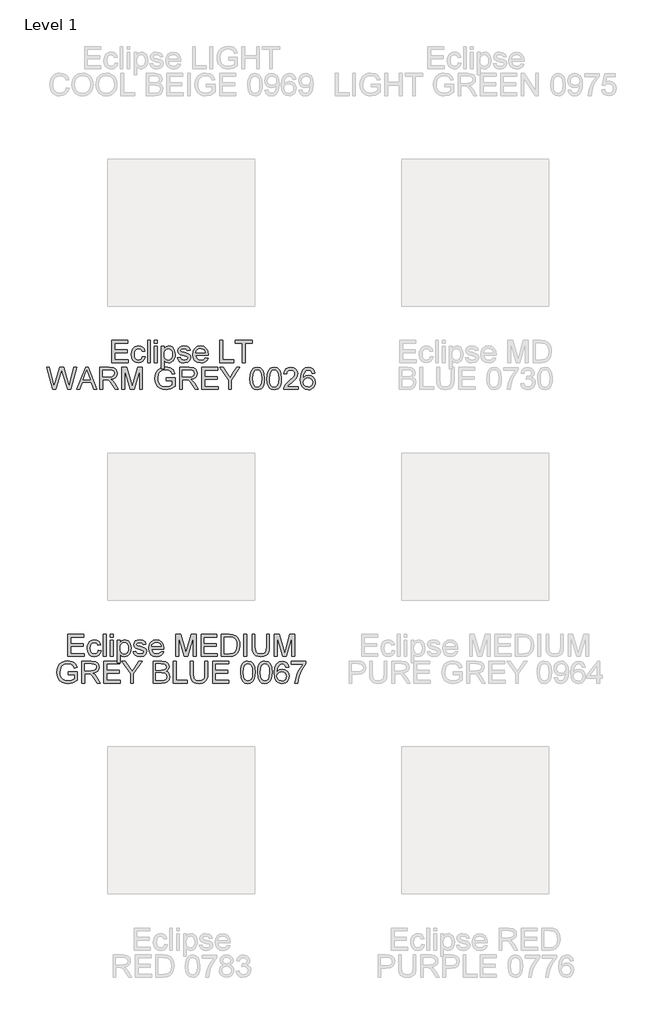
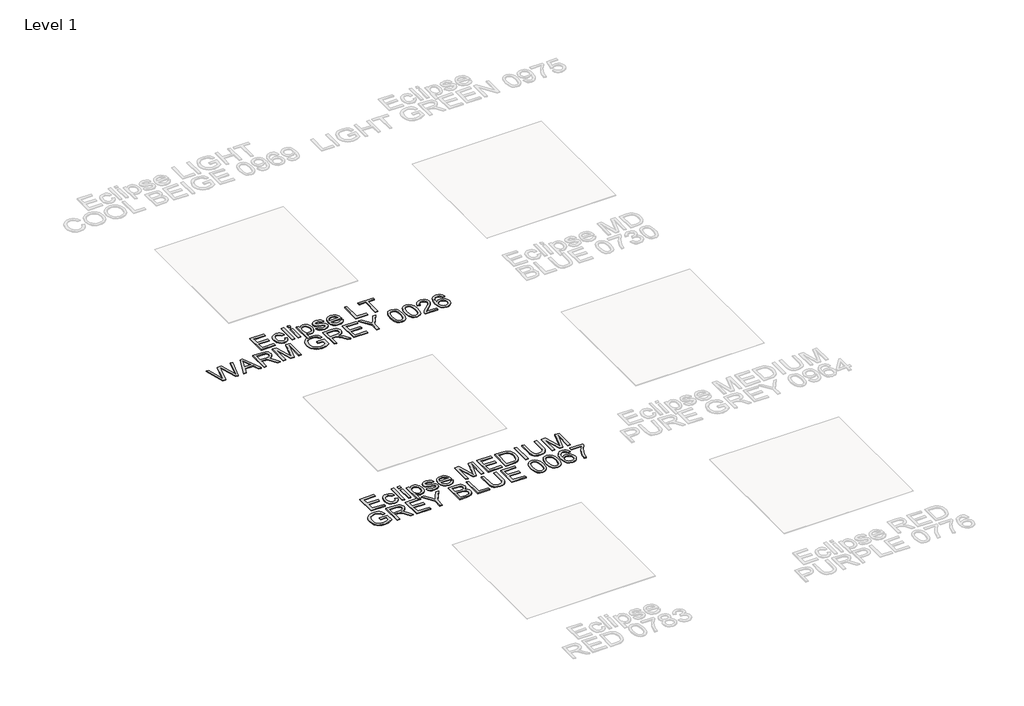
# One storey, part 2 of 13: 2 proxies.
"""IFC4 building model written with IfcOpenShell, lengths in millimetres."""

from ifc_helpers import new_model, si_unit, origin, origin_with_axes, place, context, project, spatial, polyline, outline, extrude, element, save

model = new_model("IFC4")

# Units and contexts
model_context = context("Model", 3, world=origin())
ifc_project = project(units=[si_unit("LENGTHUNIT", "METRE", prefix="MILLI")], contexts=[model_context])

# Site, building, storey
site = spatial("IfcSite", under=ifc_project)
building = spatial("IfcBuilding", under=site)
storey = spatial("IfcBuildingStorey", under=building, Name="Level 1", Elevation=0.0)

# Proxies
placement = place(None, origin())
element("IfcBuildingElementProxy", 1, Name="150mm Arial", ObjectType="150mm Arial", at=placement, inside=storey, context=model_context, shape_type="SweptSolid", body=[
    extrude(outline(polyline([(-2406.0070195, -3362.9455422), (-2406.0070195, -3212.261077), (-2297.7025601, -3212.261077), (-2297.7025601, -3231.0966352), (-2387.1714614, -3231.0966352), (-2387.1714614, -3275.8310858), (-2302.4114497, -3275.8310858), (-2302.4114497, -3294.6666439), (-2387.1714614, -3294.6666439), (-2387.1714614, -3344.1099841), (-2295.3481154, -3344.1099841), (-2295.3481154, -3362.9455422), (-2406.0070195, -3362.9455422)])), origin_with_axes(), (0.0, 0.0, 1.0), 5.0),
    extrude(outline(polyline([(-2198.8158798, -3322.9199812), (-2179.9803217, -3325.2744259), (-2185.2318372, -3342.0268523), (-2195.1002717, -3354.6865914), (-2208.6567232, -3362.6466381), (-2224.9722897, -3365.299987), (-2245.0080629, -3361.5981744), (-2260.6752373, -3350.4927367), (-2270.7873937, -3332.4711175), (-2274.1581125, -3308.0207603), (-2272.7187741, -3291.2591369), (-2268.4007592, -3276.7323967), (-2261.1350898, -3265.0015595), (-2250.8527881, -3256.6276456), (-2238.5517338, -3251.6060564), (-2225.2298071, -3249.9321933), (-2209.3143123, -3252.2314558), (-2196.5901938, -3259.1292432), (-2187.4621218, -3270.2576735), (-2182.3347665, -3285.2488648), (-2201.1703246, -3287.6033096), (-2209.907522, -3273.4950351), (-2225.0826543, -3268.7677515), (-2237.2549498, -3271.0946051), (-2246.9164507, -3278.0751659), (-2253.2210284, -3290.0865131), (-2255.3225543, -3307.5057256), (-2253.2670136, -3325.1594628), (-2247.1003917, -3337.2121967), (-2237.6136348, -3344.1513708), (-2225.5976891, -3346.4644288), (-2215.8442177, -3345.020492), (-2207.8473828, -3340.6886815), (-2202.0302488, -3333.3586328), (-2198.8158798, -3322.9199812)])), origin_with_axes(), (0.0, 0.0, 1.0), 5.0),
    extrude(outline(polyline([(-2163.4992083, -3362.9455422), (-2163.4992083, -3212.261077), (-2144.6636501, -3212.261077), (-2144.6636501, -3362.9455422), (-2163.4992083, -3362.9455422)])), origin_with_axes(), (0.0, 0.0, 1.0), 5.0),
    extrude(outline(polyline([(-2116.4103129, -3231.0966352), (-2116.4103129, -3212.261077), (-2097.5747548, -3212.261077), (-2097.5747548, -3231.0966352), (-2116.4103129, -3231.0966352)])), origin_with_axes(), (0.0, 0.0, 1.0), 5.0),
    extrude(outline(polyline([(-2116.4103129, -3362.9455422), (-2116.4103129, -3252.2866381), (-2097.5747548, -3252.2866381), (-2097.5747548, -3362.9455422), (-2116.4103129, -3362.9455422)])), origin_with_axes(), (0.0, 0.0, 1.0), 5.0),
    extrude(outline(polyline([(-2069.3214175, -3405.3255481), (-2069.3214175, -3252.2866381), (-2050.4858594, -3252.2866381), (-2050.4858594, -3270.7543142), (-2037.4628368, -3255.1377235), (-2019.8780774, -3249.9321933), (-2007.1401633, -3251.7532092), (-1996.0025359, -3257.2162568), (-1986.9342447, -3265.9902424), (-1980.4043393, -3277.7440721), (-1975.1436268, -3306.7699616), (-1976.6289503, -3322.8785944), (-1981.084921, -3337.2857731), (-1988.3689845, -3349.260332), (-1998.3385866, -3358.0711058), (-2009.949862, -3363.4927667), (-2022.1589458, -3365.299987), (-2038.5480886, -3360.4623388), (-2050.4858594, -3348.2302624), (-2050.4858594, -3405.3255481), (-2069.3214175, -3405.3255481)]), holes=[polyline([(-2050.4858594, -3308.4990069), (-2048.4487128, -3325.3847905), (-2042.3372732, -3337.1938026), (-2033.3195658, -3344.1467723), (-2022.5636159, -3346.4644288), (-2011.6329222, -3344.0639988), (-2002.3852885, -3336.8627088), (-1996.0807108, -3324.6214354), (-1993.9791849, -3307.1010554), (-1996.030127, -3290.3072423), (-2002.1829534, -3278.3326833), (-2011.1868652, -3271.1589844), (-2021.7910638, -3268.7677515), (-2032.436649, -3271.3107358), (-2041.7854502, -3278.9396886), (-2048.3107571, -3291.4154868), (-2050.4858594, -3308.4990069)])]), origin_with_axes(), (0.0, 0.0, 1.0), 5.0),
    extrude(outline(polyline([(-1961.0169582, -3329.9833155), (-1942.1814, -3327.6288707), (-1939.2107529, -3335.6854864), (-1933.4625967, -3341.6083865), (-1913.4866044, -3346.4644288), (-1894.2831642, -3342.0130567), (-1888.0291703, -3331.565208), (-1889.6018658, -3326.764348), (-1894.3199524, -3323.1039222), (-1913.7073336, -3317.732845), (-1942.0710354, -3308.517401), (-1954.4502645, -3297.7568527), (-1958.6625134, -3282.5633263), (-1955.277999, -3268.5286282), (-1946.044161, -3257.804868), (-1934.069602, -3252.2314558), (-1917.8644001, -3249.9321933), (-1894.9453518, -3253.6294074), (-1880.3772248, -3263.6357976), (-1873.9025017, -3280.5399753), (-1892.7380599, -3282.8944201), (-1899.8197883, -3272.5017537), (-1916.3928721, -3268.7677515), (-1934.4190899, -3272.3362068), (-1939.8269552, -3280.6503399), (-1937.5828751, -3286.1317816), (-1930.556329, -3290.2888482), (-1914.332733, -3294.2987619), (-1886.686401, -3303.164718), (-1873.8473194, -3313.2078965), (-1869.1936122, -3329.5786453), (-1874.6566598, -3347.604863), (-1890.4204033, -3360.683068), (-1913.7441218, -3365.299987), (-1932.7360298, -3363.0743009), (-1946.5959839, -3356.3972427), (-1955.8482161, -3345.3423888), (-1961.0169582, -3329.9833155)])), origin_with_axes(), (0.0, 0.0, 1.0), 5.0),
    extrude(outline(polyline([(-1770.5276611, -3329.9833155), (-1752.0599849, -3332.3377602), (-1758.7140505, -3346.2528967), (-1769.3320446, -3356.6547601), (-1783.6748439, -3363.1386803), (-1801.503325, -3365.299987), (-1823.6038359, -3361.5705833), (-1840.6091811, -3350.3823721), (-1851.4525029, -3332.4619204), (-1855.0669435, -3308.5357951), (-1851.4157147, -3283.804928), (-1840.4620283, -3265.3096607), (-1823.6866094, -3253.7765602), (-1802.5701828, -3249.9321933), (-1782.1113454, -3253.7673631), (-1765.7635892, -3265.2728725), (-1755.0444276, -3283.7313516), (-1751.4713737, -3308.4254305), (-1751.5817383, -3313.5022021), (-1836.2313854, -3313.5022021), (-1832.9710312, -3327.6012795), (-1825.3972606, -3337.9663548), (-1814.4665669, -3344.3399103), (-1801.1354431, -3346.4644288), (-1782.6677669, -3342.5280915), (-1770.5276611, -3329.9833155)]), holes=[polyline([(-1836.2313854, -3294.6666439), (-1770.3069319, -3294.6666439), (-1772.8545147, -3284.715436), (-1777.8485128, -3277.5969193), (-1788.8297903, -3270.9750434), (-1802.6437592, -3268.7677515), (-1815.3402866, -3270.5289865), (-1825.838719, -3275.8126917), (-1833.1365781, -3284.0486498), (-1836.2313854, -3294.6666439)])]), origin_with_axes(), (0.0, 0.0, 1.0), 5.0),
    extrude(outline(polyline([(-1671.4202516, -3362.9455422), (-1671.4202516, -3212.261077), (-1652.5846934, -3212.261077), (-1652.5846934, -3344.1099841), (-1577.2424608, -3344.1099841), (-1577.2424608, -3362.9455422), (-1671.4202516, -3362.9455422)])), origin_with_axes(), (0.0, 0.0, 1.0), 5.0),
    extrude(outline(polyline([(-1518.3813416, -3362.9455422), (-1518.3813416, -3231.0966352), (-1567.8246817, -3231.0966352), (-1567.8246817, -3212.261077), (-1450.1024433, -3212.261077), (-1450.1024433, -3231.0966352), (-1499.5457834, -3231.0966352), (-1499.5457834, -3362.9455422), (-1518.3813416, -3362.9455422)])), origin_with_axes(), (0.0, 0.0, 1.0), 5.0),
    extrude(outline(polyline([(-2809.904662, -3545.907769), (-2850.9970809, -3395.2233038), (-2831.5729115, -3395.2233038), (-2807.7341583, -3494.2571369), (-2800.3765184, -3524.8281307), (-2792.5038437, -3497.788804), (-2762.6318256, -3395.2233038), (-2734.6360058, -3395.2233038), (-2712.9309681, -3469.572255), (-2696.7809485, -3524.8281307), (-2689.6440378, -3495.1400537), (-2665.5845553, -3395.2233038), (-2646.160386, -3395.2233038), (-2687.289593, -3545.907769), (-2707.4127382, -3545.907769), (-2743.5387501, -3429.6570585), (-2748.5787334, -3413.4334625), (-2754.2441162, -3432.9679965), (-2787.1695547, -3545.907769), (-2809.904662, -3545.907769)])), origin_with_axes(), (0.0, 0.0, 1.0), 5.0),
    extrude(outline(polyline([(-2644.872799, -3545.907769), (-2584.7240928, -3395.2233038), (-2568.6844378, -3395.2233038), (-2508.5357316, -3545.907769), (-2528.4381475, -3545.907769), (-2545.6918131, -3498.8188736), (-2607.7535057, -3498.8188736), (-2624.9703831, -3545.907769), (-2644.872799, -3545.907769)]), holes=[polyline([(-2600.8373242, -3479.9833155), (-2552.5712064, -3479.9833155), (-2566.146052, -3442.9375985), (-2576.7042653, -3414.0588619), (-2586.0852562, -3439.700237), (-2600.8373242, -3479.9833155)])]), origin_with_axes(), (0.0, 0.0, 1.0), 5.0),
    extrude(outline(polyline([(-2488.4125864, -3545.907769), (-2488.4125864, -3395.2233038), (-2423.4814143, -3395.2233038), (-2393.3334848, -3399.2883998), (-2384.0536615, -3404.9169943), (-2376.8523714, -3413.6725858), (-2372.2308538, -3424.5297032), (-2370.690348, -3436.4628754), (-2373.2425293, -3451.3069139), (-2380.8990734, -3463.6125667), (-2393.8899063, -3472.6348726), (-2412.4449544, -3477.6288707), (-2401.7395884, -3485.6854864), (-2386.4724856, -3505.0728675), (-2361.3461453, -3545.907769), (-2383.235124, -3545.907769), (-2402.8432344, -3514.6745876), (-2417.0066912, -3493.9996195), (-2426.9578991, -3484.2323525), (-2435.9158257, -3480.6455031), (-2446.841921, -3479.9833155), (-2469.5770283, -3479.9833155), (-2469.5770283, -3545.907769), (-2488.4125864, -3545.907769)]), holes=[polyline([(-2469.5770283, -3461.1477573), (-2427.4177516, -3461.1477573), (-2405.915049, -3458.4806128), (-2393.7013668, -3449.9457506), (-2389.5259061, -3437.1618512), (-2391.5170674, -3427.9739984), (-2397.4905513, -3420.5703732), (-2407.7682546, -3415.6867398), (-2422.6720739, -3414.0588619), (-2469.5770283, -3414.0588619), (-2469.5770283, -3461.1477573)])]), origin_with_axes(), (0.0, 0.0, 1.0), 5.0),
    extrude(outline(polyline([(-2337.7281212, -3545.907769), (-2337.7281212, -3395.2233038), (-2305.3177174, -3395.2233038), (-2274.4892062, -3501.4308358), (-2268.2720005, -3523.6141201), (-2261.53976, -3499.5914258), (-2231.2262836, -3395.2233038), (-2198.8158798, -3395.2233038), (-2198.8158798, -3545.907769), (-2217.651438, -3545.907769), (-2217.651438, -3414.0588619), (-2255.5064953, -3545.907769), (-2281.0375058, -3545.907769), (-2318.8925631, -3414.0588619), (-2318.8925631, -3545.907769), (-2337.7281212, -3545.907769)])), origin_with_axes(), (0.0, 0.0, 1.0), 5.0),
    extrude(outline(polyline([(-2036.3591908, -3487.0466498), (-2036.3591908, -3468.2110916), (-1975.1436268, -3468.2110916), (-1975.1436268, -3524.5338251), (-2005.3651327, -3542.3025254), (-2037.315684, -3548.2622138), (-2058.4459061, -3545.8939734), (-2077.5435801, -3538.7892524), (-2093.4084912, -3527.196371), (-2104.8404242, -3511.3636497), (-2111.7520072, -3492.3717416), (-2114.0558681, -3471.3013004), (-2111.7612042, -3450.0791078), (-2104.8772124, -3430.3376402), (-2093.6890012, -3413.7783519), (-2078.4816792, -3402.1026971), (-2059.9588208, -3395.1773185), (-2038.8240001, -3392.868859), (-2009.3566523, -3398.221542), (-1997.6074211, -3404.6226887), (-1988.7000783, -3413.1207628), (-1977.3141305, -3438.044768), (-1994.6781607, -3442.9375985), (-2003.2682053, -3425.5183861), (-2017.9466969, -3415.4752076), (-2039.1183057, -3411.7044172), (-2063.2329705, -3415.7695132), (-2079.6405075, -3426.4380911), (-2089.3341981, -3440.9510358), (-2095.22031, -3470.5287482), (-2093.4498779, -3488.5411704), (-2088.1385816, -3503.3622163), (-2079.4473695, -3514.8861198), (-2067.5371899, -3523.0071148), (-2053.5990608, -3527.8217704), (-2038.8240001, -3529.4266556), (-2013.0538664, -3524.5890074), (-1993.9791849, -3514.2699174), (-1993.9791849, -3487.0466498), (-2036.3591908, -3487.0466498)])), origin_with_axes(), (0.0, 0.0, 1.0), 5.0),
    extrude(outline(polyline([(-1944.5358448, -3545.907769), (-1944.5358448, -3395.2233038), (-1879.6046726, -3395.2233038), (-1849.4567431, -3399.2883998), (-1840.1769198, -3404.9169943), (-1832.9756297, -3413.6725858), (-1828.3541122, -3424.5297032), (-1826.8136063, -3436.4628754), (-1829.3657877, -3451.3069139), (-1837.0223317, -3463.6125667), (-1850.0131646, -3472.6348726), (-1868.5682128, -3477.6288707), (-1857.8628467, -3485.6854864), (-1842.5957439, -3505.0728675), (-1817.4694036, -3545.907769), (-1839.3583824, -3545.907769), (-1858.9664927, -3514.6745876), (-1873.1299495, -3493.9996195), (-1883.0811575, -3484.2323525), (-1892.0390841, -3480.6455031), (-1902.9651793, -3479.9833155), (-1925.7002866, -3479.9833155), (-1925.7002866, -3545.907769), (-1944.5358448, -3545.907769)]), holes=[polyline([(-1925.7002866, -3461.1477573), (-1883.54101, -3461.1477573), (-1862.0383074, -3458.4806128), (-1849.8246251, -3449.9457506), (-1845.6491645, -3437.1618512), (-1847.6403258, -3427.9739984), (-1853.6138097, -3420.5703732), (-1863.8915129, -3415.6867398), (-1878.7953322, -3414.0588619), (-1925.7002866, -3414.0588619), (-1925.7002866, -3461.1477573)])]), origin_with_axes(), (0.0, 0.0, 1.0), 5.0),
    extrude(outline(polyline([(-1793.8513795, -3545.907769), (-1793.8513795, -3395.2233038), (-1685.5469202, -3395.2233038), (-1685.5469202, -3414.0588619), (-1775.0158214, -3414.0588619), (-1775.0158214, -3458.7933125), (-1690.2558097, -3458.7933125), (-1690.2558097, -3477.6288707), (-1775.0158214, -3477.6288707), (-1775.0158214, -3527.0722108), (-1683.1924754, -3527.0722108), (-1683.1924754, -3545.907769), (-1793.8513795, -3545.907769)])), origin_with_axes(), (0.0, 0.0, 1.0), 5.0),
    extrude(outline(polyline([(-1612.5591323, -3545.907769), (-1612.5591323, -3482.0802428), (-1671.4202516, -3395.2233038), (-1649.200179, -3395.2233038), (-1617.7830567, -3441.6132234), (-1601.7066135, -3465.2680357), (-1585.5933821, -3439.9209662), (-1557.0825275, -3395.2233038), (-1534.8624549, -3395.2233038), (-1593.7235742, -3482.0802428), (-1593.7235742, -3545.907769), (-1612.5591323, -3545.907769)])), origin_with_axes(), (0.0, 0.0, 1.0), 5.0),
    extrude(outline(polyline([(-1466.5835566, -3471.779547), (-1465.1994006, -3447.6602837), (-1461.0469326, -3428.4246538), (-1454.1675393, -3413.7783519), (-1444.6026074, -3403.4270723), (-1432.2831591, -3397.2742459), (-1417.1402165, -3395.2233038), (-1395.1408732, -3400.0793461), (-1379.9473468, -3414.077256), (-1371.1181789, -3436.3709049), (-1367.6968763, -3471.779547), (-1369.0672368, -3495.7608545), (-1373.1783181, -3514.9504991), (-1380.0163246, -3529.6105966), (-1389.5674609, -3540.003263), (-1401.9145004, -3546.1974761), (-1417.1402165, -3548.2622138), (-1436.7115386, -3544.6753643), (-1451.5739712, -3533.914816), (-1462.8311603, -3508.4297907), (-1466.5835566, -3471.779547)]), holes=[polyline([(-1447.7479985, -3471.7427588), (-1445.5407065, -3501.371055), (-1438.9188306, -3518.5189545), (-1429.0595931, -3526.6997303), (-1417.1402165, -3529.4266556), (-1405.2208398, -3526.6905333), (-1395.3616024, -3518.4821663), (-1388.7397265, -3501.3250697), (-1386.5324345, -3471.7427588), (-1388.6661501, -3442.7812487), (-1395.0672968, -3425.499992), (-1404.9081401, -3416.9191444), (-1417.3609457, -3414.0588619), (-1429.1515636, -3416.5788536), (-1438.624525, -3424.1388286), (-1445.4671301, -3442.4961402), (-1447.7479985, -3471.7427588)])]), origin_with_axes(), (0.0, 0.0, 1.0), 5.0),
    extrude(outline(polyline([(-1351.215763, -3471.779547), (-1349.8316069, -3447.6602837), (-1345.6791389, -3428.4246538), (-1338.7997456, -3413.7783519), (-1329.2348137, -3403.4270723), (-1316.9153654, -3397.2742459), (-1301.7724228, -3395.2233038), (-1279.7730795, -3400.0793461), (-1264.5795531, -3414.077256), (-1255.7503852, -3436.3709049), (-1252.3290826, -3471.779547), (-1253.6994431, -3495.7608545), (-1257.8105244, -3514.9504991), (-1264.648531, -3529.6105966), (-1274.1996673, -3540.003263), (-1286.5467067, -3546.1974761), (-1301.7724228, -3548.2622138), (-1321.3437449, -3544.6753643), (-1336.2061775, -3533.914816), (-1347.4633666, -3508.4297907), (-1351.215763, -3471.779547)]), holes=[polyline([(-1332.3802048, -3471.7427588), (-1330.1729128, -3501.371055), (-1323.5510369, -3518.5189545), (-1313.6917994, -3526.6997303), (-1301.7724228, -3529.4266556), (-1289.8530462, -3526.6905333), (-1279.9938087, -3518.4821663), (-1273.3719328, -3501.3250697), (-1271.1646408, -3471.7427588), (-1273.2983564, -3442.7812487), (-1279.6995031, -3425.499992), (-1289.5403465, -3416.9191444), (-1301.993152, -3414.0588619), (-1313.7837699, -3416.5788536), (-1323.2567313, -3424.1388286), (-1330.0993364, -3442.4961402), (-1332.3802048, -3471.7427588)])]), origin_with_axes(), (0.0, 0.0, 1.0), 5.0),
    extrude(outline(polyline([(-1139.3157337, -3527.0722108), (-1139.3157337, -3545.907769), (-1238.202414, -3545.907769), (-1236.1790631, -3532.9215346), (-1224.737933, -3512.9271481), (-1201.1566971, -3491.0933517), (-1168.6359287, -3459.7130175), (-1162.5382847, -3448.8972869), (-1160.5057367, -3438.3758618), (-1162.4233216, -3428.9442872), (-1168.1760763, -3421.1038021), (-1177.0190397, -3415.820097), (-1188.2072509, -3414.0588619), (-1199.9564821, -3415.7787103), (-1209.0845541, -3420.9382552), (-1214.9752646, -3429.1328267), (-1217.0124111, -3439.9577544), (-1235.8479693, -3437.6033096), (-1231.281634, -3419.3839538), (-1221.408601, -3406.0758226), (-1206.7439049, -3397.9364335), (-1187.8025807, -3395.2233038), (-1168.7233007, -3398.2399361), (-1154.0861958, -3407.2898332), (-1144.7741828, -3420.8094965), (-1141.6701785, -3437.2354276), (-1145.0179047, -3455.0960985), (-1156.146335, -3473.5637746), (-1183.1304794, -3499.3706966), (-1204.7987289, -3517.4888849), (-1213.296803, -3527.0722108), (-1139.3157337, -3527.0722108)])), origin_with_axes(), (0.0, 0.0, 1.0), 5.0),
    extrude(outline(polyline([(-1023.94794, -3435.2488648), (-1042.7834982, -3437.6033096), (-1049.9204089, -3421.8947484), (-1058.4644682, -3416.0178336), (-1068.7927553, -3414.0588619), (-1085.7889034, -3418.6205987), (-1098.6463792, -3435.7455055), (-1102.5505268, -3449.7756051), (-1103.9990622, -3469.3147376), (-1087.3891901, -3454.2867581), (-1066.8061925, -3449.3755335), (-1049.4053741, -3452.7324567), (-1034.8004589, -3462.8032263), (-1024.8952362, -3478.1898907), (-1021.5934953, -3497.4944984), (-1023.1477967, -3510.9819721), (-1027.810701, -3523.4853614), (-1035.195932, -3534.0895599), (-1044.9172138, -3541.8794612), (-1056.5330878, -3546.6665256), (-1069.6020956, -3548.2622138), (-1090.971441, -3544.0315708), (-1107.9905818, -3531.339642), (-1119.1236107, -3508.9356285), (-1122.8346203, -3475.5687315), (-1118.714342, -3438.0539651), (-1106.353507, -3412.4033929), (-1089.4769204, -3399.5183261), (-1067.6155329, -3395.2233038), (-1051.0884342, -3397.8812512), (-1037.8538795, -3405.8550934), (-1028.5832532, -3418.5194311), (-1023.94794, -3435.2488648)]), holes=[polyline([(-1103.9990622, -3497.2001928), (-1099.6396605, -3513.5157593), (-1088.0513777, -3525.3615596), (-1071.0736236, -3529.4266556), (-1058.6438107, -3527.3205312), (-1048.8719452, -3521.0021579), (-1042.5397764, -3511.0693441), (-1040.4290534, -3498.1198978), (-1042.5121852, -3485.6900849), (-1048.7615806, -3476.212525), (-1058.698993, -3470.21145), (-1071.8461758, -3468.2110916), (-1084.2575946, -3470.21145), (-1094.6364654, -3476.212525), (-1101.658413, -3485.4601587), (-1103.9990622, -3497.2001928)])]), origin_with_axes(), (0.0, 0.0, 1.0), 5.0),
])
element("IfcBuildingElementProxy", 2, Name="150mm Arial", ObjectType="150mm Arial", at=placement, inside=storey, context=model_context, shape_type="SweptSolid", body=[
    extrude(outline(polyline([(-2706.1987276, -5362.9455422), (-2706.1987276, -5212.261077), (-2597.8942682, -5212.261077), (-2597.8942682, -5231.0966352), (-2687.3631694, -5231.0966352), (-2687.3631694, -5275.8310858), (-2602.6031577, -5275.8310858), (-2602.6031577, -5294.6666439), (-2687.3631694, -5294.6666439), (-2687.3631694, -5344.1099841), (-2595.5398234, -5344.1099841), (-2595.5398234, -5362.9455422), (-2706.1987276, -5362.9455422)])), origin_with_axes(), (0.0, 0.0, 1.0), 5.0),
    extrude(outline(polyline([(-2499.0075879, -5322.9199812), (-2480.1720297, -5325.2744259), (-2485.4235452, -5342.0268523), (-2495.2919798, -5354.6865914), (-2508.8484313, -5362.6466381), (-2525.1639978, -5365.299987), (-2545.1997709, -5361.5981744), (-2560.8669454, -5350.4927367), (-2570.9791017, -5332.4711175), (-2574.3498205, -5308.0207603), (-2572.9104822, -5291.2591369), (-2568.5924673, -5276.7323967), (-2561.3267979, -5265.0015595), (-2551.0444961, -5256.6276456), (-2538.7434419, -5251.6060564), (-2525.4215152, -5249.9321933), (-2509.5060203, -5252.2314558), (-2496.7819018, -5259.1292432), (-2487.6538298, -5270.2576735), (-2482.5264745, -5285.2488648), (-2501.3620327, -5287.6033096), (-2510.0992301, -5273.4950351), (-2525.2743624, -5268.7677515), (-2537.4466579, -5271.0946051), (-2547.1081588, -5278.0751659), (-2553.4127365, -5290.0865131), (-2555.5142624, -5307.5057256), (-2553.4587217, -5325.1594628), (-2547.2920998, -5337.2121967), (-2537.8053428, -5344.1513708), (-2525.7893972, -5346.4644288), (-2516.0359258, -5345.020492), (-2508.0390909, -5340.6886815), (-2502.2219568, -5333.3586328), (-2499.0075879, -5322.9199812)])), origin_with_axes(), (0.0, 0.0, 1.0), 5.0),
    extrude(outline(polyline([(-2463.6909164, -5362.9455422), (-2463.6909164, -5212.261077), (-2444.8553582, -5212.261077), (-2444.8553582, -5362.9455422), (-2463.6909164, -5362.9455422)])), origin_with_axes(), (0.0, 0.0, 1.0), 5.0),
    extrude(outline(polyline([(-2416.602021, -5231.0966352), (-2416.602021, -5212.261077), (-2397.7664628, -5212.261077), (-2397.7664628, -5231.0966352), (-2416.602021, -5231.0966352)])), origin_with_axes(), (0.0, 0.0, 1.0), 5.0),
    extrude(outline(polyline([(-2416.602021, -5362.9455422), (-2416.602021, -5252.2866381), (-2397.7664628, -5252.2866381), (-2397.7664628, -5362.9455422), (-2416.602021, -5362.9455422)])), origin_with_axes(), (0.0, 0.0, 1.0), 5.0),
    extrude(outline(polyline([(-2369.5131256, -5405.3255481), (-2369.5131256, -5252.2866381), (-2350.6775674, -5252.2866381), (-2350.6775674, -5270.7543142), (-2337.6545448, -5255.1377235), (-2320.0697854, -5249.9321933), (-2307.3318714, -5251.7532092), (-2296.194244, -5257.2162568), (-2287.1259528, -5265.9902424), (-2280.5960474, -5277.7440721), (-2275.3353348, -5306.7699616), (-2276.8206584, -5322.8785944), (-2281.2766291, -5337.2857731), (-2288.5606926, -5349.260332), (-2298.5302946, -5358.0711058), (-2310.1415701, -5363.4927667), (-2322.3506538, -5365.299987), (-2338.7397967, -5360.4623388), (-2350.6775674, -5348.2302624), (-2350.6775674, -5405.3255481), (-2369.5131256, -5405.3255481)]), holes=[polyline([(-2350.6775674, -5308.4990069), (-2348.6404209, -5325.3847905), (-2342.5289813, -5337.1938026), (-2333.5112738, -5344.1467723), (-2322.755324, -5346.4644288), (-2311.8246302, -5344.0639988), (-2302.5769966, -5336.8627088), (-2296.2724189, -5324.6214354), (-2294.170893, -5307.1010554), (-2296.2218351, -5290.3072423), (-2302.3746615, -5278.3326833), (-2311.3785733, -5271.1589844), (-2321.9827718, -5268.7677515), (-2332.6283571, -5271.3107358), (-2341.9771583, -5278.9396886), (-2348.5024652, -5291.4154868), (-2350.6775674, -5308.4990069)])]), origin_with_axes(), (0.0, 0.0, 1.0), 5.0),
    extrude(outline(polyline([(-2261.2086662, -5329.9833155), (-2242.3731081, -5327.6288707), (-2239.402461, -5335.6854864), (-2233.6543048, -5341.6083865), (-2213.6783124, -5346.4644288), (-2194.4748723, -5342.0130567), (-2188.2208784, -5331.565208), (-2189.7935739, -5326.764348), (-2194.5116605, -5323.1039222), (-2213.8990416, -5317.732845), (-2242.2627435, -5308.517401), (-2254.6419726, -5297.7568527), (-2258.8542215, -5282.5633263), (-2255.4697071, -5268.5286282), (-2246.235869, -5257.804868), (-2234.2613101, -5252.2314558), (-2218.0561082, -5249.9321933), (-2195.1370599, -5253.6294074), (-2180.5689329, -5263.6357976), (-2174.0942098, -5280.5399753), (-2192.9297679, -5282.8944201), (-2200.0114963, -5272.5017537), (-2216.5845802, -5268.7677515), (-2234.610798, -5272.3362068), (-2240.0186633, -5280.6503399), (-2237.7745831, -5286.1317816), (-2230.748037, -5290.2888482), (-2214.524441, -5294.2987619), (-2186.8781091, -5303.164718), (-2174.0390275, -5313.2078965), (-2169.3853202, -5329.5786453), (-2174.8483679, -5347.604863), (-2190.6121113, -5360.683068), (-2213.9358298, -5365.299987), (-2232.9277378, -5363.0743009), (-2246.787692, -5356.3972427), (-2256.0399242, -5345.3423888), (-2261.2086662, -5329.9833155)])), origin_with_axes(), (0.0, 0.0, 1.0), 5.0),
    extrude(outline(polyline([(-2070.7193691, -5329.9833155), (-2052.251693, -5332.3377602), (-2058.9057585, -5346.2528967), (-2069.5237526, -5356.6547601), (-2083.8665519, -5363.1386803), (-2101.6950331, -5365.299987), (-2123.795544, -5361.5705833), (-2140.8008892, -5350.3823721), (-2151.644211, -5332.4619204), (-2155.2586516, -5308.5357951), (-2151.6074228, -5283.804928), (-2140.6537364, -5265.3096607), (-2123.8783174, -5253.7765602), (-2102.7618909, -5249.9321933), (-2082.3030534, -5253.7673631), (-2065.9552973, -5265.2728725), (-2055.2361356, -5283.7313516), (-2051.6630818, -5308.4254305), (-2051.7734464, -5313.5022021), (-2136.4230935, -5313.5022021), (-2133.1627393, -5327.6012795), (-2125.5889687, -5337.9663548), (-2114.6582749, -5344.3399103), (-2101.3271511, -5346.4644288), (-2082.859475, -5342.5280915), (-2070.7193691, -5329.9833155)]), holes=[polyline([(-2136.4230935, -5294.6666439), (-2070.4986399, -5294.6666439), (-2073.0462227, -5284.715436), (-2078.0402208, -5277.5969193), (-2089.0214984, -5270.9750434), (-2102.8354673, -5268.7677515), (-2115.5319947, -5270.5289865), (-2126.0304271, -5275.8126917), (-2133.3282862, -5284.0486498), (-2136.4230935, -5294.6666439)])]), origin_with_axes(), (0.0, 0.0, 1.0), 5.0),
    extrude(outline(polyline([(-1971.6119596, -5362.9455422), (-1971.6119596, -5212.261077), (-1939.2015558, -5212.261077), (-1908.3730446, -5318.468609), (-1902.1558389, -5340.6518933), (-1895.4235984, -5316.629199), (-1865.110122, -5212.261077), (-1832.6997182, -5212.261077), (-1832.6997182, -5362.9455422), (-1851.5352764, -5362.9455422), (-1851.5352764, -5231.0966352), (-1889.3903337, -5362.9455422), (-1914.9213442, -5362.9455422), (-1952.7764015, -5231.0966352), (-1952.7764015, -5362.9455422), (-1971.6119596, -5362.9455422)])), origin_with_axes(), (0.0, 0.0, 1.0), 5.0),
    extrude(outline(polyline([(-1799.7374915, -5362.9455422), (-1799.7374915, -5212.261077), (-1691.4330321, -5212.261077), (-1691.4330321, -5231.0966352), (-1780.9019333, -5231.0966352), (-1780.9019333, -5275.8310858), (-1696.1419216, -5275.8310858), (-1696.1419216, -5294.6666439), (-1780.9019333, -5294.6666439), (-1780.9019333, -5344.1099841), (-1689.0785873, -5344.1099841), (-1689.0785873, -5362.9455422), (-1799.7374915, -5362.9455422)])), origin_with_axes(), (0.0, 0.0, 1.0), 5.0),
    extrude(outline(polyline([(-1660.8252501, -5362.9455422), (-1660.8252501, -5212.261077), (-1608.8435242, -5212.261077), (-1581.9513503, -5214.4315808), (-1559.8048542, -5225.2105232), (-1549.3845967, -5236.6884415), (-1541.9625775, -5250.9622629), (-1537.5204024, -5267.756076), (-1536.0396773, -5286.7939692), (-1540.0495911, -5317.1994161), (-1550.3502869, -5339.1435771), (-1564.1090736, -5352.8103933), (-1582.1168972, -5360.3703683), (-1606.3419266, -5362.9455422), (-1660.8252501, -5362.9455422)]), holes=[polyline([(-1641.9896919, -5344.1099841), (-1608.6595832, -5344.1099841), (-1584.4161597, -5341.3876573), (-1570.4366439, -5333.6989236), (-1558.9771197, -5314.9921242), (-1554.8752355, -5286.4996636), (-1556.8847909, -5265.9718483), (-1562.9134571, -5250.8151101), (-1571.8207999, -5240.4040496), (-1582.4663851, -5234.1132675), (-1609.174618, -5231.0966352), (-1641.9896919, -5231.0966352), (-1641.9896919, -5344.1099841)])]), origin_with_axes(), (0.0, 0.0, 1.0), 5.0),
    extrude(outline(polyline([(-1507.7863401, -5362.9455422), (-1507.7863401, -5212.261077), (-1488.9507819, -5212.261077), (-1488.9507819, -5362.9455422), (-1507.7863401, -5362.9455422)])), origin_with_axes(), (0.0, 0.0, 1.0), 5.0),
    extrude(outline(polyline([(-1352.3929853, -5212.261077), (-1333.5574272, -5212.261077), (-1333.5574272, -5299.1915925), (-1334.8358171, -5319.5492624), (-1338.6709869, -5335.2256339), (-1345.8354888, -5347.3197545), (-1357.1018749, -5356.9306716), (-1372.4977364, -5363.2076582), (-1392.0506644, -5365.299987), (-1411.1759296, -5363.4789711), (-1426.4660251, -5358.0159235), (-1437.9255492, -5349.0993836), (-1445.5591006, -5336.9178911), (-1449.8495244, -5320.579332), (-1451.2796656, -5299.1915925), (-1451.2796656, -5212.261077), (-1432.4441075, -5212.261077), (-1432.4441075, -5298.5294049), (-1428.7284993, -5327.2425946), (-1423.679319, -5335.4049764), (-1415.9629941, -5341.4612337), (-1393.816498, -5346.4644288), (-1374.6590431, -5343.9904224), (-1361.921129, -5336.5684032), (-1354.7750213, -5322.1106408), (-1352.3929853, -5298.5294049), (-1352.3929853, -5212.261077)])), origin_with_axes(), (0.0, 0.0, 1.0), 5.0),
    extrude(outline(polyline([(-1300.5952004, -5362.9455422), (-1300.5952004, -5212.261077), (-1268.1847966, -5212.261077), (-1237.3562854, -5318.468609), (-1231.1390797, -5340.6518933), (-1224.4068392, -5316.629199), (-1194.0933628, -5212.261077), (-1161.682959, -5212.261077), (-1161.682959, -5362.9455422), (-1180.5185172, -5362.9455422), (-1180.5185172, -5231.0966352), (-1218.3735745, -5362.9455422), (-1243.904585, -5362.9455422), (-1281.7596423, -5231.0966352), (-1281.7596423, -5362.9455422), (-1300.5952004, -5362.9455422)])), origin_with_axes(), (0.0, 0.0, 1.0), 5.0),
    extrude(outline(polyline([(-2702.6670604, -5487.0466498), (-2702.6670604, -5468.2110916), (-2641.4514964, -5468.2110916), (-2641.4514964, -5524.5338251), (-2671.6730023, -5542.3025254), (-2703.6235536, -5548.2622138), (-2724.7537757, -5545.8939734), (-2743.8514498, -5538.7892524), (-2759.7163608, -5527.196371), (-2771.1482938, -5511.3636497), (-2778.0598768, -5492.3717416), (-2780.3637378, -5471.3013004), (-2778.0690739, -5450.0791078), (-2771.185082, -5430.3376402), (-2759.9968709, -5413.7783519), (-2744.7895489, -5402.1026971), (-2726.2666904, -5395.1773185), (-2705.1318698, -5392.868859), (-2675.664522, -5398.221542), (-2663.9152908, -5404.6226887), (-2655.007948, -5413.1207628), (-2643.6220002, -5438.044768), (-2660.9860304, -5442.9375985), (-2669.576075, -5425.5183861), (-2684.2545666, -5415.4752076), (-2705.4261754, -5411.7044172), (-2729.5408402, -5415.7695132), (-2745.9483772, -5426.4380911), (-2755.6420677, -5440.9510358), (-2761.5281797, -5470.5287482), (-2759.7577476, -5488.5411704), (-2754.4464513, -5503.3622163), (-2745.7552391, -5514.8861198), (-2733.8450595, -5523.0071148), (-2719.9069304, -5527.8217704), (-2705.1318698, -5529.4266556), (-2679.361736, -5524.5890074), (-2660.2870546, -5514.2699174), (-2660.2870546, -5487.0466498), (-2702.6670604, -5487.0466498)])), origin_with_axes(), (0.0, 0.0, 1.0), 5.0),
    extrude(outline(polyline([(-2610.8437144, -5545.907769), (-2610.8437144, -5395.2233038), (-2545.9125423, -5395.2233038), (-2515.7646128, -5399.2883998), (-2506.4847895, -5404.9169943), (-2499.2834994, -5413.6725858), (-2494.6619818, -5424.5297032), (-2493.121476, -5436.4628754), (-2495.6736573, -5451.3069139), (-2503.3302013, -5463.6125667), (-2516.3210343, -5472.6348726), (-2534.8760824, -5477.6288707), (-2524.1707164, -5485.6854864), (-2508.9036136, -5505.0728675), (-2483.7772733, -5545.907769), (-2505.666252, -5545.907769), (-2525.2743624, -5514.6745876), (-2539.4378192, -5493.9996195), (-2549.3890271, -5484.2323525), (-2558.3469537, -5480.6455031), (-2569.273049, -5479.9833155), (-2592.0081563, -5479.9833155), (-2592.0081563, -5545.907769), (-2610.8437144, -5545.907769)]), holes=[polyline([(-2592.0081563, -5461.1477573), (-2549.8488796, -5461.1477573), (-2528.346177, -5458.4806128), (-2516.1324948, -5449.9457506), (-2511.9570341, -5437.1618512), (-2513.9481954, -5427.9739984), (-2519.9216793, -5420.5703732), (-2530.1993826, -5415.6867398), (-2545.1032019, -5414.0588619), (-2592.0081563, -5414.0588619), (-2592.0081563, -5461.1477573)])]), origin_with_axes(), (0.0, 0.0, 1.0), 5.0),
    extrude(outline(polyline([(-2460.1592492, -5545.907769), (-2460.1592492, -5395.2233038), (-2351.8547898, -5395.2233038), (-2351.8547898, -5414.0588619), (-2441.3236911, -5414.0588619), (-2441.3236911, -5458.7933125), (-2356.5636794, -5458.7933125), (-2356.5636794, -5477.6288707), (-2441.3236911, -5477.6288707), (-2441.3236911, -5527.0722108), (-2349.5003451, -5527.0722108), (-2349.5003451, -5545.907769), (-2460.1592492, -5545.907769)])), origin_with_axes(), (0.0, 0.0, 1.0), 5.0),
    extrude(outline(polyline([(-2278.867002, -5545.907769), (-2278.867002, -5482.0802428), (-2337.7281212, -5395.2233038), (-2315.5080487, -5395.2233038), (-2284.0909263, -5441.6132234), (-2268.0144831, -5465.2680357), (-2251.9012517, -5439.9209662), (-2223.3903971, -5395.2233038), (-2201.1703246, -5395.2233038), (-2260.0314438, -5482.0802428), (-2260.0314438, -5545.907769), (-2278.867002, -5545.907769)])), origin_with_axes(), (0.0, 0.0, 1.0), 5.0),
    extrude(outline(polyline([(-2125.828092, -5545.907769), (-2125.828092, -5395.2233038), (-2068.3281361, -5395.2233038), (-2040.1667694, -5399.6562818), (-2030.7030051, -5405.2802778), (-2023.5385032, -5413.2863097), (-2017.5236326, -5432.5633263), (-2022.58201, -5450.1664798), (-2037.8675069, -5463.5022021), (-2027.1943306, -5469.0756143), (-2019.3078603, -5477.5552943), (-2014.4380224, -5488.380222), (-2012.8147431, -5500.9893774), (-2017.2477211, -5521.2412812), (-2028.2289987, -5535.6622554), (-2044.6181416, -5543.3142009), (-2068.7695945, -5545.907769), (-2125.828092, -5545.907769)]), holes=[polyline([(-2106.9925338, -5456.4388678), (-2072.5955673, -5456.4388678), (-2052.5092104, -5454.820187), (-2040.4242868, -5447.8488232), (-2036.3591908, -5435.5799586), (-2040.1483753, -5423.2927), (-2051.0008942, -5416.0270306), (-2075.2075295, -5414.0588619), (-2106.9925338, -5414.0588619), (-2106.9925338, -5456.4388678)]), polyline([(-2106.9925338, -5527.0722108), (-2068.3649243, -5527.0722108), (-2054.3854085, -5526.3364469), (-2042.5580024, -5522.2345626), (-2034.7221159, -5513.8652472), (-2031.6503012, -5501.1733184), (-2035.2555448, -5486.531615), (-2046.9357981, -5477.7944176), (-2070.2043343, -5475.2744259), (-2106.9925338, -5475.2744259), (-2106.9925338, -5527.0722108)])]), origin_with_axes(), (0.0, 0.0, 1.0), 5.0),
    extrude(outline(polyline([(-1986.9158506, -5545.907769), (-1986.9158506, -5395.2233038), (-1968.0802925, -5395.2233038), (-1968.0802925, -5527.0722108), (-1892.7380599, -5527.0722108), (-1892.7380599, -5545.907769), (-1986.9158506, -5545.907769)])), origin_with_axes(), (0.0, 0.0, 1.0), 5.0),
    extrude(outline(polyline([(-1772.6613766, -5395.2233038), (-1753.8258185, -5395.2233038), (-1753.8258185, -5482.1538192), (-1755.1042084, -5502.5114891), (-1758.9393782, -5518.1878607), (-1766.1038801, -5530.2819813), (-1777.3702662, -5539.8928984), (-1792.7661277, -5546.1698849), (-1812.3190557, -5548.2622138), (-1831.4443209, -5546.4411979), (-1846.7344164, -5540.9781503), (-1858.1939405, -5532.0616104), (-1865.8274919, -5519.8801178), (-1870.1179157, -5503.5415587), (-1871.5480569, -5482.1538192), (-1871.5480569, -5395.2233038), (-1852.7124988, -5395.2233038), (-1852.7124988, -5481.4916316), (-1848.9968906, -5510.2048214), (-1843.9477102, -5518.3672031), (-1836.2313854, -5524.4234605), (-1814.0848893, -5529.4266556), (-1794.9274344, -5526.9526492), (-1782.1895203, -5519.5306299), (-1775.0434125, -5505.0728675), (-1772.6613766, -5481.4916316), (-1772.6613766, -5395.2233038)])), origin_with_axes(), (0.0, 0.0, 1.0), 5.0),
    extrude(outline(polyline([(-1720.8635917, -5545.907769), (-1720.8635917, -5395.2233038), (-1612.5591323, -5395.2233038), (-1612.5591323, -5414.0588619), (-1702.0280336, -5414.0588619), (-1702.0280336, -5458.7933125), (-1617.2680219, -5458.7933125), (-1617.2680219, -5477.6288707), (-1702.0280336, -5477.6288707), (-1702.0280336, -5527.0722108), (-1610.2046876, -5527.0722108), (-1610.2046876, -5545.907769), (-1720.8635917, -5545.907769)])), origin_with_axes(), (0.0, 0.0, 1.0), 5.0),
    extrude(outline(polyline([(-1530.1535654, -5471.779547), (-1528.7694094, -5447.6602837), (-1524.6169414, -5428.4246538), (-1517.7375481, -5413.7783519), (-1508.1726162, -5403.4270723), (-1495.8531679, -5397.2742459), (-1480.7102253, -5395.2233038), (-1458.7108819, -5400.0793461), (-1443.5173555, -5414.077256), (-1434.6881877, -5436.3709049), (-1431.2668851, -5471.779547), (-1432.6372455, -5495.7608545), (-1436.7483268, -5514.9504991), (-1443.5863334, -5529.6105966), (-1453.1374697, -5540.003263), (-1465.4845092, -5546.1974761), (-1480.7102253, -5548.2622138), (-1500.2815474, -5544.6753643), (-1515.14398, -5533.914816), (-1526.4011691, -5508.4297907), (-1530.1535654, -5471.779547)]), holes=[polyline([(-1511.3180073, -5471.7427588), (-1509.1107153, -5501.371055), (-1502.4888394, -5518.5189545), (-1492.6296019, -5526.6997303), (-1480.7102253, -5529.4266556), (-1468.7908486, -5526.6905333), (-1458.9316111, -5518.4821663), (-1452.3097352, -5501.3250697), (-1450.1024433, -5471.7427588), (-1452.2361588, -5442.7812487), (-1458.6373055, -5425.499992), (-1468.4781489, -5416.9191444), (-1480.9309545, -5414.0588619), (-1492.7215724, -5416.5788536), (-1502.1945338, -5424.1388286), (-1509.0371389, -5442.4961402), (-1511.3180073, -5471.7427588)])]), origin_with_axes(), (0.0, 0.0, 1.0), 5.0),
    extrude(outline(polyline([(-1414.7857717, -5471.779547), (-1413.4016157, -5447.6602837), (-1409.2491477, -5428.4246538), (-1402.3697544, -5413.7783519), (-1392.8048225, -5403.4270723), (-1380.4853742, -5397.2742459), (-1365.3424316, -5395.2233038), (-1343.3430883, -5400.0793461), (-1328.1495619, -5414.077256), (-1319.320394, -5436.3709049), (-1315.8990914, -5471.779547), (-1317.2694518, -5495.7608545), (-1321.3805331, -5514.9504991), (-1328.2185397, -5529.6105966), (-1337.769676, -5540.003263), (-1350.1167155, -5546.1974761), (-1365.3424316, -5548.2622138), (-1384.9137537, -5544.6753643), (-1399.7761863, -5533.914816), (-1411.0333754, -5508.4297907), (-1414.7857717, -5471.779547)]), holes=[polyline([(-1395.9502136, -5471.7427588), (-1393.7429216, -5501.371055), (-1387.1210457, -5518.5189545), (-1377.2618082, -5526.6997303), (-1365.3424316, -5529.4266556), (-1353.4230549, -5526.6905333), (-1343.5638175, -5518.4821663), (-1336.9419415, -5501.3250697), (-1334.7346496, -5471.7427588), (-1336.8683651, -5442.7812487), (-1343.2695119, -5425.499992), (-1353.1103552, -5416.9191444), (-1365.5631608, -5414.0588619), (-1377.3537787, -5416.5788536), (-1386.8267401, -5424.1388286), (-1393.6693452, -5442.4961402), (-1395.9502136, -5471.7427588)])]), origin_with_axes(), (0.0, 0.0, 1.0), 5.0),
    extrude(outline(polyline([(-1202.8857425, -5435.2488648), (-1221.7213006, -5437.6033096), (-1228.8582114, -5421.8947484), (-1237.4022707, -5416.0178336), (-1247.7305577, -5414.0588619), (-1264.7267059, -5418.6205987), (-1277.5841816, -5435.7455055), (-1281.4883293, -5449.7756051), (-1282.9368646, -5469.3147376), (-1266.3269926, -5454.2867581), (-1245.7439949, -5449.3755335), (-1228.3431766, -5452.7324567), (-1213.7382614, -5462.8032263), (-1203.8330386, -5478.1898907), (-1200.5312977, -5497.4944984), (-1202.0855992, -5510.9819721), (-1206.7485034, -5523.4853614), (-1214.1337345, -5534.0895599), (-1223.8550162, -5541.8794612), (-1235.4708902, -5546.6665256), (-1248.5398981, -5548.2622138), (-1269.9092435, -5544.0315708), (-1286.9283843, -5531.339642), (-1298.0614132, -5508.9356285), (-1301.7724228, -5475.5687315), (-1297.6521445, -5438.0539651), (-1285.2913094, -5412.4033929), (-1268.4147229, -5399.5183261), (-1246.5533353, -5395.2233038), (-1230.0262367, -5397.8812512), (-1216.7916819, -5405.8550934), (-1207.5210556, -5418.5194311), (-1202.8857425, -5435.2488648)]), holes=[polyline([(-1282.9368646, -5497.2001928), (-1278.577463, -5513.5157593), (-1266.9891802, -5525.3615596), (-1250.0114261, -5529.4266556), (-1237.5816132, -5527.3205312), (-1227.8097477, -5521.0021579), (-1221.4775788, -5511.0693441), (-1219.3668559, -5498.1198978), (-1221.4499877, -5485.6900849), (-1227.6993831, -5476.212525), (-1237.6367955, -5470.21145), (-1250.7839783, -5468.2110916), (-1263.1953971, -5470.21145), (-1273.5742679, -5476.212525), (-1280.5962155, -5485.4601587), (-1282.9368646, -5497.2001928)])]), origin_with_axes(), (0.0, 0.0, 1.0), 5.0),
    extrude(outline(polyline([(-1184.0501843, -5416.4133067), (-1184.0501843, -5397.5777485), (-1085.163504, -5397.5777485), (-1085.163504, -5412.8080631), (-1113.2145062, -5453.3302649), (-1125.5247574, -5478.7922975), (-1134.6804206, -5504.9625029), (-1141.6701785, -5545.907769), (-1160.5057367, -5545.907769), (-1153.019338, -5503.4173986), (-1144.3051333, -5478.9578444), (-1132.4731286, -5455.3904041), (-1103.9990622, -5416.4133067), (-1184.0501843, -5416.4133067)])), origin_with_axes(), (0.0, 0.0, 1.0), 5.0),
])

save(model, "model.ifc")
